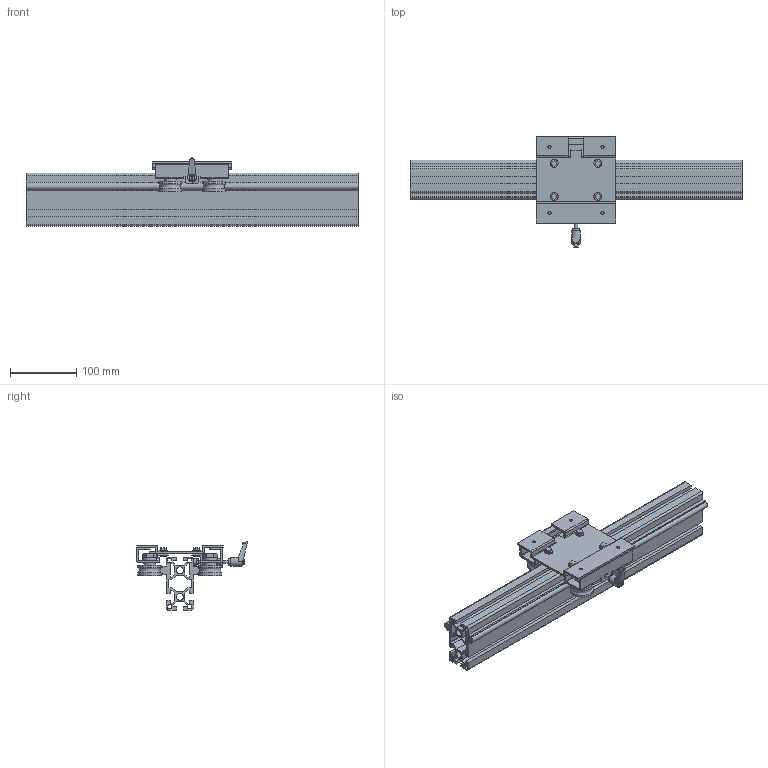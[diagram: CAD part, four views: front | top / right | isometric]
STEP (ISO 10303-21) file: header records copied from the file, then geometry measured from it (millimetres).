
FILE_DESCRIPTION((''),'2;1');
FILE_NAME('C:\Documents and Settings\土屋\My Documents\土屋移動用フォルダ\製品 (図面3D用)\LSダウンロード用図面\新型キャリッジ\step形式(ダウンロード用)\LS4080AC.stp','2018-08-03T16:14:31',('y'),(''),'Autodesk Inventor 11','Autodesk Inventor 11','');
FILE_SCHEMA(('AUTOMOTIVE_DESIGN { 1 0 10303 214 1 1 1 1 }'));
Length unit declared in the file: millimetre
Products named in the file (4): LS4080AC; LS4080ACレール; LS4080ACキャリッジ; LS4080AC用クランプ
Assembly tree (3 placements, depth 2):
  LS4080AC
    LS4080ACレール
    LS4080ACキャリッジ
    LS4080AC用クランプ
Bounding box: 500 x 166.5 x 103.1 mm (x, y, z)
Volume: 947935.9 mm3; surface area: 484268.9 mm2
Topology: 7 solids, 7 shells, 491 faces, 1254 edges, 807 vertices
Faces by surface type: plane 287, cylinder 115, cone 77, bspline 12
Full cylindrical faces by diameter (mm): 5 x2, 7 x1, 8 x1, 8.8 x4, 10 x4, 10.5 x2, 11 x4, 12 x8, 13 x1, 18 x4, 21 x4, 35 x8
Entity records: 14850 total; most frequent: CARTESIAN_POINT 3320, ORIENTED_EDGE 2330, DIRECTION 2328, EDGE_CURVE 1165, AXIS2_PLACEMENT_3D 807, VERTEX_POINT 790, VECTOR 714, LINE 714
